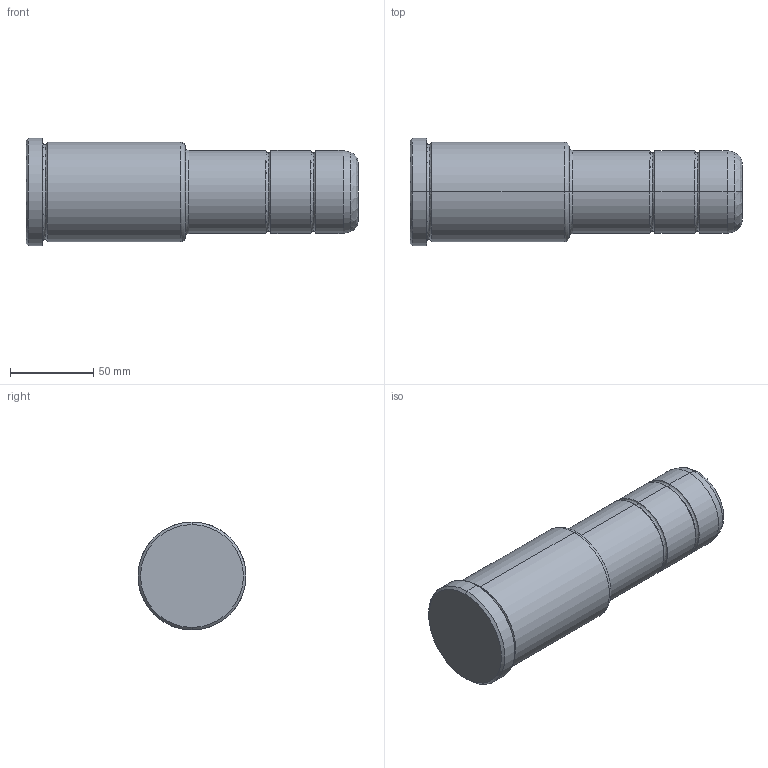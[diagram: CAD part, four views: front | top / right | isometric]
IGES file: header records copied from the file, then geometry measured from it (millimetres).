
Start section: START RECORD GO HERE.
Global section: file name: 351-50X96X200.igs; native system: DASSAULT SYSTEMES CATIA V5 R20 - www.3ds.com; preprocessor: CATIA Version 5 Release 20 ; author: Utente; organization: NB04-ASUS; date: 20211108.195912; units: millimetre
Bounding box: 200 x 65 x 65 mm (x, y, z)
Surface area: 40855.7 mm2 (no closed solid volume)
Topology: 0 solids, 0 shells, 35 faces, 196 edges, 196 vertices
Faces by surface type: revolution 32, plane 3
